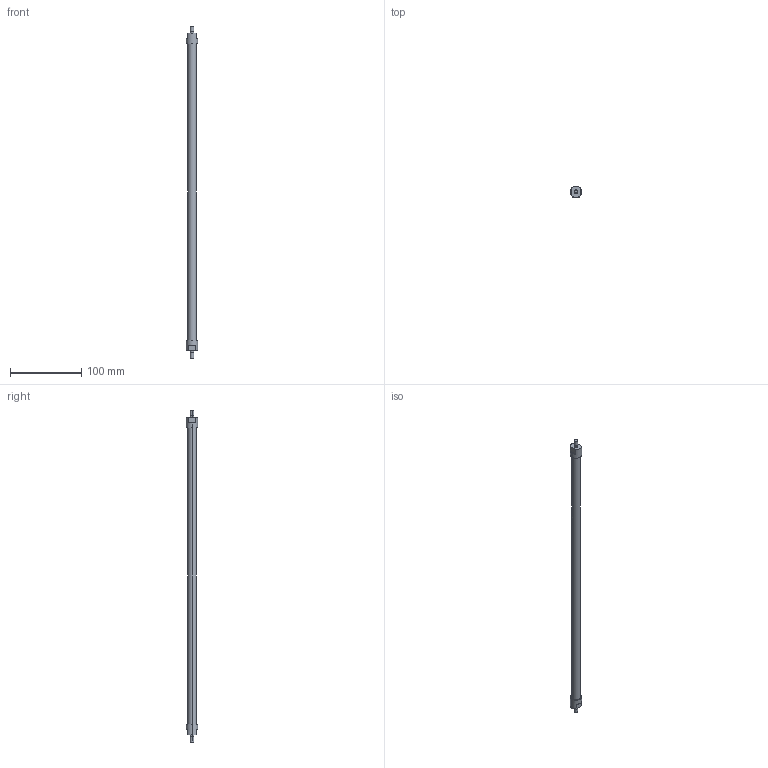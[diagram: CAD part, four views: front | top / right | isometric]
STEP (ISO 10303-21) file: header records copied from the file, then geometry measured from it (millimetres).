
FILE_DESCRIPTION(('STEP AP214'),'1');
FILE_NAME('ETT-R025N455.stp','2015-02-04T08:21:17',(' '),(' '),'Spatial InterOp 3D',' ',' ');
FILE_SCHEMA(('automotive_design'));
Length unit declared in the file: metre
Products named in the file (3): 1; 2; 3
Bounding box: 16 x 16 x 466 mm (x, y, z)
Volume: 53008.9 mm3; surface area: 18271.8 mm2
Topology: 1 solids, 7 shells, 30 faces, 81 edges, 63 vertices
Faces by surface type: plane 16, cylinder 14
Entity records: 1295 total; most frequent: DIRECTION 194, CARTESIAN_POINT 177, ORIENTED_EDGE 138, EDGE_CURVE 81, AXIS2_PLACEMENT_3D 80, VERTEX_POINT 63, CIRCLE 47, EDGE_LOOP 36
